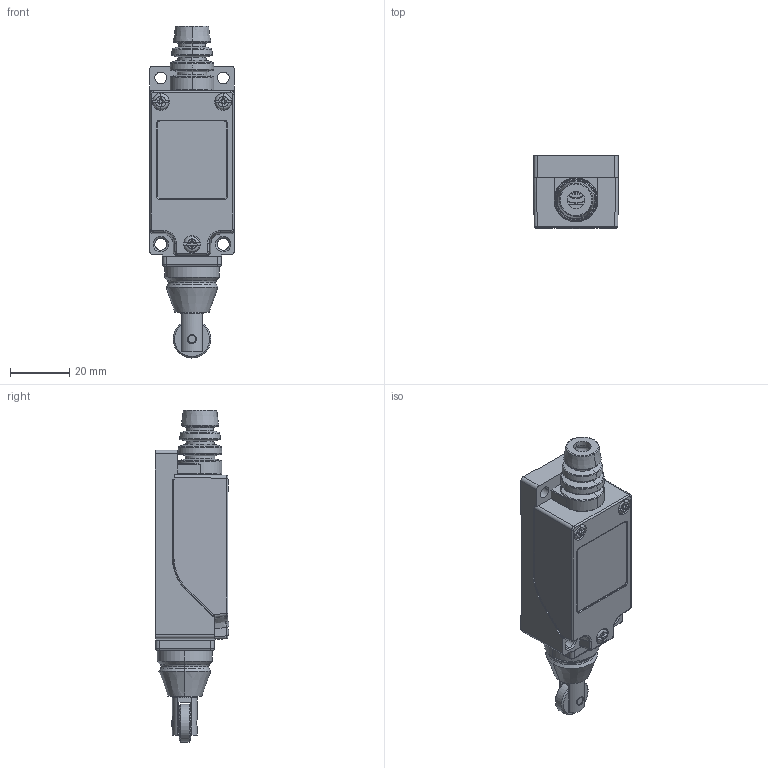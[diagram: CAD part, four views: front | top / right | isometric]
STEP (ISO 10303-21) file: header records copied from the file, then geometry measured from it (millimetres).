
FILE_DESCRIPTION((''),'2;1');
FILE_NAME('ALS1-M11_B2_ASM','2019-02-20T15:16:45',('1'),(''),'CREO PARAMETRIC BY PTC INC, 2016510','CREO PARAMETRIC BY PTC INC, 2016510','');
FILE_SCHEMA(('CONFIG_CONTROL_DESIGN'));
Products named in the file (1): ALS1-M11_B2_ASM
Bounding box: 28.5 x 24.8 x 111.85 mm (x, y, z)
Volume: 19883.3 mm3; surface area: 25301.3 mm2
Topology: 3 solids, 15 shells, 1271 faces, 3317 edges, 2090 vertices
Faces by surface type: plane 523, cylinder 397, torus 104, cone 102, extrusion 61, bspline 56, sphere 28
Entity records: 50676 total; most frequent: CARTESIAN_POINT 19860, ORIENTED_EDGE 6543, DIRECTION 6234, EDGE_CURVE 3285, AXIS2_PLACEMENT_3D 2220, VERTEX_POINT 2090, VECTOR 1794, LINE 1733
